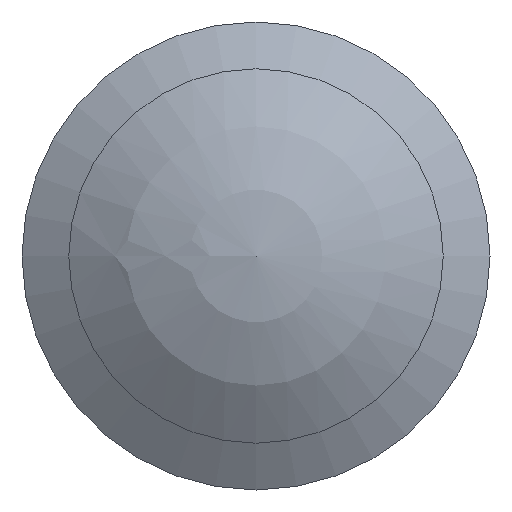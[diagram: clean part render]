
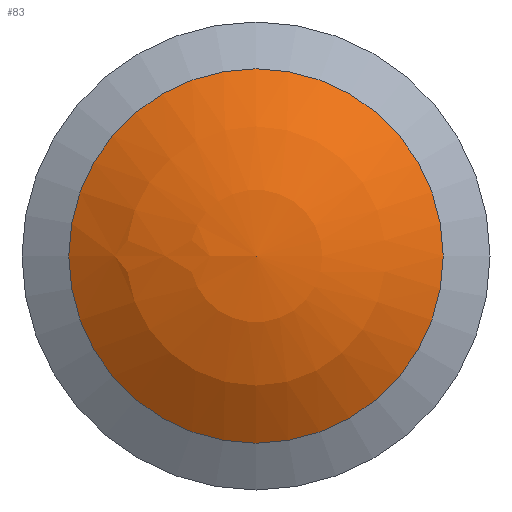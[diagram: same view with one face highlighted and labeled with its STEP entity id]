
A CAD part, front view. The second image highlights one B-rep face of the part: STEP entity #83.
In plain terms, the highlighted spherical face has radius 6.75 mm.
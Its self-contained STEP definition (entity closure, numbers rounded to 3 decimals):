
#83 = ADVANCED_FACE( '', ( #108, #109 ), #110, .T. );
#108 = FACE_BOUND( '', #146, .T. );
#109 = FACE_OUTER_BOUND( '', #147, .T. );
#110 = SPHERICAL_SURFACE( '', #148, 6.75 );
#146 = VERTEX_LOOP( '', #228 );
#147 = EDGE_LOOP( '', ( #229 ) );
#148 = AXIS2_PLACEMENT_3D( '', #230, #231, #232 );
#228 = VERTEX_POINT( '', #282 );
#229 = ORIENTED_EDGE( '', *, *, #283, .T. );
#230 = CARTESIAN_POINT( '', ( 0., 6.75, 0. ) );
#231 = DIRECTION( '', ( 0., -1., 0. ) );
#232 = DIRECTION( '', ( -1., 0., 0. ) );
#282 = CARTESIAN_POINT( '', ( 0., 0., 0. ) );
#283 = EDGE_CURVE( '', #321, #321, #322, .T. );
#321 = VERTEX_POINT( '', #383 );
#322 = CIRCLE( '', #384, 4. );
#383 = CARTESIAN_POINT( '', ( 0., 1.313, -4. ) );
#384 = AXIS2_PLACEMENT_3D( '', #416, #417, #418 );
#416 = CARTESIAN_POINT( '', ( 0., 1.313, 0. ) );
#417 = DIRECTION( '', ( 0., -1., 0. ) );
#418 = DIRECTION( '', ( 0., 0., -1. ) );
